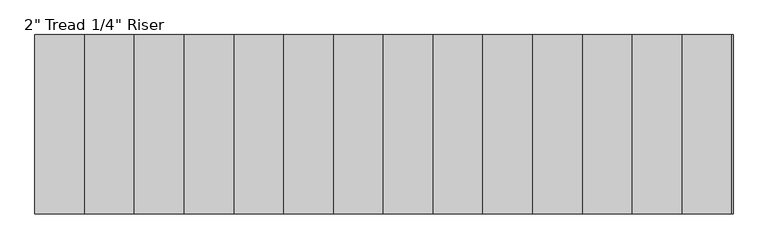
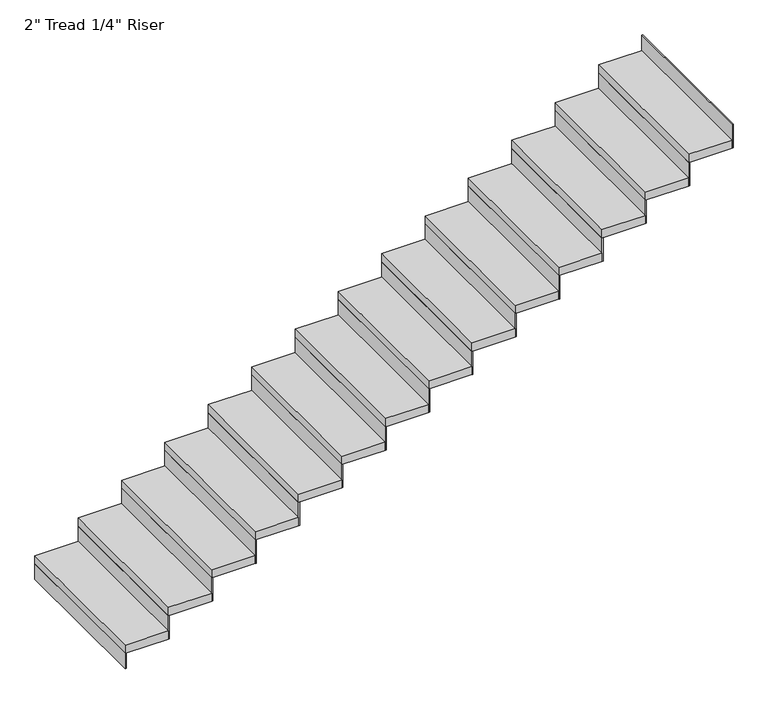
"""IFC4 building model written with IfcOpenShell, lengths in millimetres: stair flight geometry."""

from ifc_helpers import new_model, si_unit, frame, origin, origin_with_axes, place, context, project, spatial, polyline, outline, extrude, source, transform, mapped, element, save


def stair_flight_2b8314ce(model_context):
    return source(origin(), model_context, "Body", "SweptSolid", [
        extrude(outline(polyline([(12662.9535021, 28700.5361774), (12656.6035021, 28700.5361774), (12656.6035021, 29614.9361774), (12662.9535021, 29614.9361774), (12662.9535021, 28700.5361774)])), origin_with_axes(), (0.0, 0.0, 1.0), 94.3428571),
        extrude(outline(polyline([(12910.6035021, 29614.9361774), (12910.6035021, 28700.5361774), (12656.6035021, 28700.5361774), (12656.6035021, 29614.9361774), (12910.6035021, 29614.9361774)])), frame((0.0, 0.0, 94.3428571), z_axis=(0.0, 0.0, 1.0), x_axis=(1.0, 0.0, 0.0)), (0.0, 0.0, 1.0), 50.8),
        extrude(outline(polyline([(12916.9535021, 28700.5361774), (12910.6035021, 28700.5361774), (12910.6035021, 29614.9361774), (12916.9535021, 29614.9361774), (12916.9535021, 28700.5361774)])), frame((0.0, 0.0, 94.3428571), z_axis=(0.0, 0.0, 1.0), x_axis=(1.0, 0.0, 0.0)), (0.0, 0.0, 1.0), 145.1428571),
        extrude(outline(polyline([(13164.6035021, 29614.9361774), (13164.6035021, 28700.5361774), (12910.6035021, 28700.5361774), (12910.6035021, 29614.9361774), (13164.6035021, 29614.9361774)])), frame((0.0, 0.0, 239.4857143), z_axis=(0.0, 0.0, 1.0), x_axis=(1.0, 0.0, 0.0)), (0.0, 0.0, 1.0), 50.8),
        extrude(outline(polyline([(13170.9535021, 28700.5361774), (13164.6035021, 28700.5361774), (13164.6035021, 29614.9361774), (13170.9535021, 29614.9361774), (13170.9535021, 28700.5361774)])), frame((0.0, 0.0, 239.4857143), z_axis=(0.0, 0.0, 1.0), x_axis=(1.0, 0.0, 0.0)), (0.0, 0.0, 1.0), 145.1428571),
        extrude(outline(polyline([(13418.6035021, 29614.9361774), (13418.6035021, 28700.5361774), (13164.6035021, 28700.5361774), (13164.6035021, 29614.9361774), (13418.6035021, 29614.9361774)])), frame((0.0, 0.0, 384.6285714), z_axis=(0.0, 0.0, 1.0), x_axis=(1.0, 0.0, 0.0)), (0.0, 0.0, 1.0), 50.8),
        extrude(outline(polyline([(13424.9535021, 28700.5361774), (13418.6035021, 28700.5361774), (13418.6035021, 29614.9361774), (13424.9535021, 29614.9361774), (13424.9535021, 28700.5361774)])), frame((0.0, 0.0, 384.6285714), z_axis=(0.0, 0.0, 1.0), x_axis=(1.0, 0.0, 0.0)), (0.0, 0.0, 1.0), 145.1428571),
        extrude(outline(polyline([(13672.6035021, 29614.9361774), (13672.6035021, 28700.5361774), (13418.6035021, 28700.5361774), (13418.6035021, 29614.9361774), (13672.6035021, 29614.9361774)])), frame((0.0, 0.0, 529.7714286), z_axis=(0.0, 0.0, 1.0), x_axis=(1.0, 0.0, 0.0)), (0.0, 0.0, 1.0), 50.8),
        extrude(outline(polyline([(13678.9535021, 28700.5361774), (13672.6035021, 28700.5361774), (13672.6035021, 29614.9361774), (13678.9535021, 29614.9361774), (13678.9535021, 28700.5361774)])), frame((0.0, 0.0, 529.7714286), z_axis=(0.0, 0.0, 1.0), x_axis=(1.0, 0.0, 0.0)), (0.0, 0.0, 1.0), 145.1428571),
        extrude(outline(polyline([(13926.6035021, 29614.9361774), (13926.6035021, 28700.5361774), (13672.6035021, 28700.5361774), (13672.6035021, 29614.9361774), (13926.6035021, 29614.9361774)])), frame((0.0, 0.0, 674.9142857), z_axis=(0.0, 0.0, 1.0), x_axis=(1.0, 0.0, 0.0)), (0.0, 0.0, 1.0), 50.8),
        extrude(outline(polyline([(13932.9535021, 28700.5361774), (13926.6035021, 28700.5361774), (13926.6035021, 29614.9361774), (13932.9535021, 29614.9361774), (13932.9535021, 28700.5361774)])), frame((0.0, 0.0, 674.9142857), z_axis=(0.0, 0.0, 1.0), x_axis=(1.0, 0.0, 0.0)), (0.0, 0.0, 1.0), 145.1428571),
        extrude(outline(polyline([(14180.6035021, 29614.9361774), (14180.6035021, 28700.5361774), (13926.6035021, 28700.5361774), (13926.6035021, 29614.9361774), (14180.6035021, 29614.9361774)])), frame((0.0, 0.0, 820.0571429), z_axis=(0.0, 0.0, 1.0), x_axis=(1.0, 0.0, 0.0)), (0.0, 0.0, 1.0), 50.8),
        extrude(outline(polyline([(14186.9535021, 28700.5361774), (14180.6035021, 28700.5361774), (14180.6035021, 29614.9361774), (14186.9535021, 29614.9361774), (14186.9535021, 28700.5361774)])), frame((0.0, 0.0, 820.0571429), z_axis=(0.0, 0.0, 1.0), x_axis=(1.0, 0.0, 0.0)), (0.0, 0.0, 1.0), 145.1428571),
        extrude(outline(polyline([(14434.6035021, 29614.9361774), (14434.6035021, 28700.5361774), (14180.6035021, 28700.5361774), (14180.6035021, 29614.9361774), (14434.6035021, 29614.9361774)])), frame((0.0, 0.0, 965.2), z_axis=(0.0, 0.0, 1.0), x_axis=(1.0, 0.0, 0.0)), (0.0, 0.0, 1.0), 50.8),
        extrude(outline(polyline([(14440.9535021, 28700.5361774), (14434.6035021, 28700.5361774), (14434.6035021, 29614.9361774), (14440.9535021, 29614.9361774), (14440.9535021, 28700.5361774)])), frame((0.0, 0.0, 965.2), z_axis=(0.0, 0.0, 1.0), x_axis=(1.0, 0.0, 0.0)), (0.0, 0.0, 1.0), 145.1428571),
        extrude(outline(polyline([(14688.6035021, 29614.9361774), (14688.6035021, 28700.5361774), (14434.6035021, 28700.5361774), (14434.6035021, 29614.9361774), (14688.6035021, 29614.9361774)])), frame((0.0, 0.0, 1110.3428571), z_axis=(0.0, 0.0, 1.0), x_axis=(1.0, 0.0, 0.0)), (0.0, 0.0, 1.0), 50.8),
        extrude(outline(polyline([(14694.9535021, 28700.5361774), (14688.6035021, 28700.5361774), (14688.6035021, 29614.9361774), (14694.9535021, 29614.9361774), (14694.9535021, 28700.5361774)])), frame((0.0, 0.0, 1110.3428571), z_axis=(0.0, 0.0, 1.0), x_axis=(1.0, 0.0, 0.0)), (0.0, 0.0, 1.0), 145.1428571),
        extrude(outline(polyline([(14942.6035021, 29614.9361774), (14942.6035021, 28700.5361774), (14688.6035021, 28700.5361774), (14688.6035021, 29614.9361774), (14942.6035021, 29614.9361774)])), frame((0.0, 0.0, 1255.4857143), z_axis=(0.0, 0.0, 1.0), x_axis=(1.0, 0.0, 0.0)), (0.0, 0.0, 1.0), 50.8),
        extrude(outline(polyline([(14948.9535021, 28700.5361774), (14942.6035021, 28700.5361774), (14942.6035021, 29614.9361774), (14948.9535021, 29614.9361774), (14948.9535021, 28700.5361774)])), frame((0.0, 0.0, 1255.4857143), z_axis=(0.0, 0.0, 1.0), x_axis=(1.0, 0.0, 0.0)), (0.0, 0.0, 1.0), 145.1428571),
        extrude(outline(polyline([(15196.6035021, 29614.9361774), (15196.6035021, 28700.5361774), (14942.6035021, 28700.5361774), (14942.6035021, 29614.9361774), (15196.6035021, 29614.9361774)])), frame((0.0, 0.0, 1400.6285714), z_axis=(0.0, 0.0, 1.0), x_axis=(1.0, 0.0, 0.0)), (0.0, 0.0, 1.0), 50.8),
        extrude(outline(polyline([(15202.9535021, 28700.5361774), (15196.6035021, 28700.5361774), (15196.6035021, 29614.9361774), (15202.9535021, 29614.9361774), (15202.9535021, 28700.5361774)])), frame((0.0, 0.0, 1400.6285714), z_axis=(0.0, 0.0, 1.0), x_axis=(1.0, 0.0, 0.0)), (0.0, 0.0, 1.0), 145.1428571),
        extrude(outline(polyline([(15450.6035021, 29614.9361774), (15450.6035021, 28700.5361774), (15196.6035021, 28700.5361774), (15196.6035021, 29614.9361774), (15450.6035021, 29614.9361774)])), frame((0.0, 0.0, 1545.7714286), z_axis=(0.0, 0.0, 1.0), x_axis=(1.0, 0.0, 0.0)), (0.0, 0.0, 1.0), 50.8),
        extrude(outline(polyline([(15456.9535021, 28700.5361774), (15450.6035021, 28700.5361774), (15450.6035021, 29614.9361774), (15456.9535021, 29614.9361774), (15456.9535021, 28700.5361774)])), frame((0.0, 0.0, 1545.7714286), z_axis=(0.0, 0.0, 1.0), x_axis=(1.0, 0.0, 0.0)), (0.0, 0.0, 1.0), 145.1428571),
        extrude(outline(polyline([(15704.6035021, 29614.9361774), (15704.6035021, 28700.5361774), (15450.6035021, 28700.5361774), (15450.6035021, 29614.9361774), (15704.6035021, 29614.9361774)])), frame((0.0, 0.0, 1690.9142857), z_axis=(0.0, 0.0, 1.0), x_axis=(1.0, 0.0, 0.0)), (0.0, 0.0, 1.0), 50.8),
        extrude(outline(polyline([(15710.9535021, 28700.5361774), (15704.6035021, 28700.5361774), (15704.6035021, 29614.9361774), (15710.9535021, 29614.9361774), (15710.9535021, 28700.5361774)])), frame((0.0, 0.0, 1690.9142857), z_axis=(0.0, 0.0, 1.0), x_axis=(1.0, 0.0, 0.0)), (0.0, 0.0, 1.0), 145.1428571),
        extrude(outline(polyline([(15958.6035021, 29614.9361774), (15958.6035021, 28700.5361774), (15704.6035021, 28700.5361774), (15704.6035021, 29614.9361774), (15958.6035021, 29614.9361774)])), frame((0.0, 0.0, 1836.0571429), z_axis=(0.0, 0.0, 1.0), x_axis=(1.0, 0.0, 0.0)), (0.0, 0.0, 1.0), 50.8),
        extrude(outline(polyline([(15964.9535021, 28700.5361774), (15958.6035021, 28700.5361774), (15958.6035021, 29614.9361774), (15964.9535021, 29614.9361774), (15964.9535021, 28700.5361774)])), frame((0.0, 0.0, 1836.0571429), z_axis=(0.0, 0.0, 1.0), x_axis=(1.0, 0.0, 0.0)), (0.0, 0.0, 1.0), 145.1428571),
        extrude(outline(polyline([(16218.9535021, 28700.5361774), (16212.6035021, 28700.5361774), (16212.6035021, 29614.9361774), (16218.9535021, 29614.9361774), (16218.9535021, 28700.5361774)])), frame((0.0, 0.0, 1981.2), z_axis=(0.0, 0.0, 1.0), x_axis=(1.0, 0.0, 0.0)), (0.0, 0.0, 1.0), 145.1428571),
        extrude(outline(polyline([(16212.6035021, 29614.9361774), (16212.6035021, 28700.5361774), (15958.6035021, 28700.5361774), (15958.6035021, 29614.9361774), (16212.6035021, 29614.9361774)])), frame((0.0, 0.0, 1981.2), z_axis=(0.0, 0.0, 1.0), x_axis=(1.0, 0.0, 0.0)), (0.0, 0.0, 1.0), 50.8),
    ])


if __name__ == "__main__":
    model = new_model("IFC4")
    model_context = context("Model", 3, world=origin())
    ifc_project = project(units=[si_unit("LENGTHUNIT", "METRE", prefix="MILLI")], contexts=[model_context])
    site = spatial("IfcSite", under=ifc_project)
    building = spatial("IfcBuilding", under=site)
    placement = place(None, origin())
    stair_flight_shape = stair_flight_2b8314ce(model_context)
    element("IfcStairFlight", 1, ObjectType="2\" Tread 1/4\" Riser", at=placement, inside=building, context=model_context, shape_type="MappedRepresentation", body=[
        mapped(stair_flight_shape, transform((0.0, 0.0, 0.0), x_axis=(1.0, 0.0, 0.0), y_axis=(0.0, 1.0, 0.0), z_axis=(0.0, 0.0, 1.0))),
    ])
    save(model, "model.ifc")
